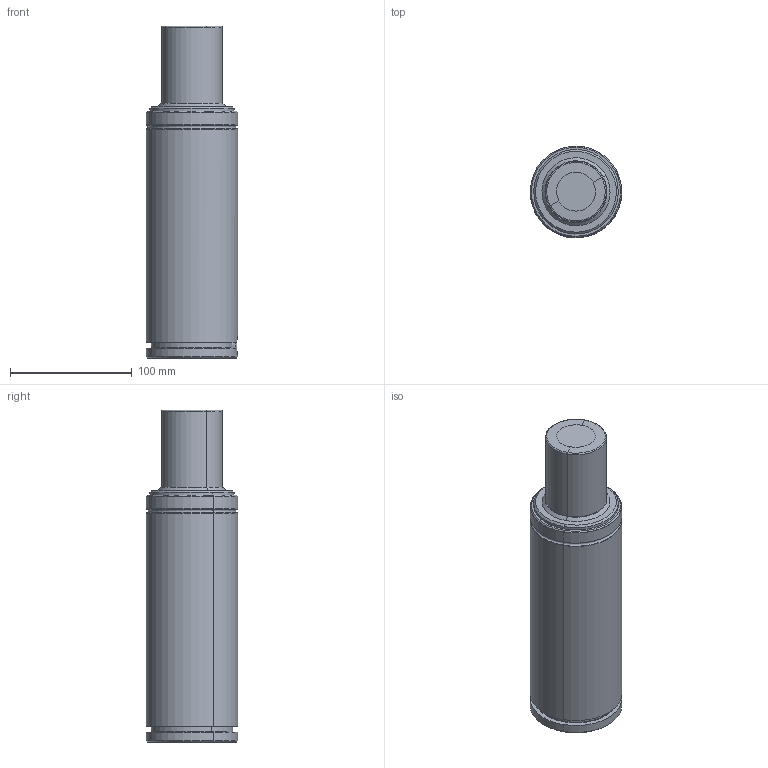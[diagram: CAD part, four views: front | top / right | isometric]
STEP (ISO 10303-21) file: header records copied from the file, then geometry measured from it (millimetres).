
FILE_DESCRIPTION(('CATIA V5 STEP Exchange'),'2;1');
FILE_NAME('W:\CATALOGO GENERAL 2018\FICHEROS CAD\006-TPF\TPFS 4700\TPFS 4700x65.stp','2017-11-21T15:39:18+00:00',('none'),('none'),'CATIA Version 5 Release 17 (IN-10)','CATIA V5 STEP AP203','none');
FILE_SCHEMA(('CONFIG_CONTROL_DESIGN'));
Length unit declared in the file: millimetre
Products named in the file (1): TPFS 4700x65
Assembly tree (3 placements, depth 2):
  TPFS 4700x65
    #56
    #504
    #2396
Bounding box: 75.19 x 75.18 x 273 mm (x, y, z)
Volume: 1103521.2 mm3; surface area: 87528.9 mm2
Topology: 4 solids, 4 shells, 167 faces, 360 edges, 203 vertices
Faces by surface type: cone 62, torus 42, cylinder 39, plane 24
Entity records: 4137 total; most frequent: CARTESIAN_POINT 807, ORIENTED_EDGE 700, DIRECTION 552, EDGE_CURVE 350, AXIS2_PLACEMENT_3D 324, CIRCLE 212, VERTEX_POINT 203, EDGE_LOOP 181
